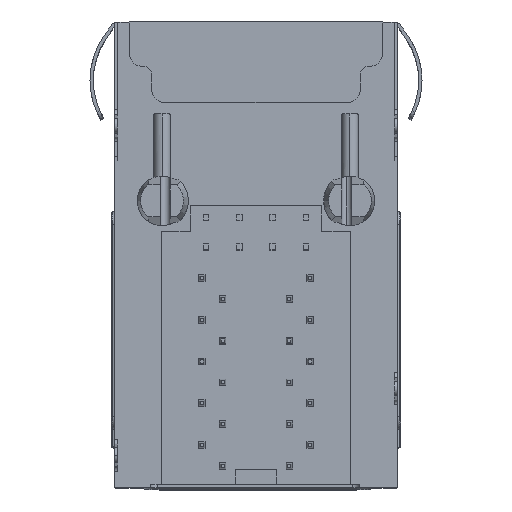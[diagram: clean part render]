
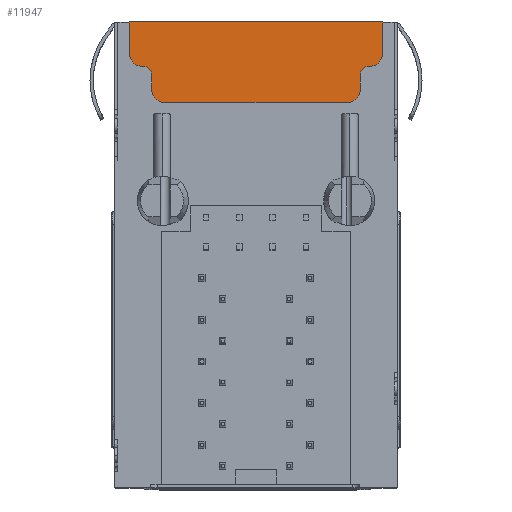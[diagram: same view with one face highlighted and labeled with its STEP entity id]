
A CAD part, top view. The second image highlights one B-rep face of the part: STEP entity #11947.
In plain terms, the highlighted planar face has unit normal (0, 0, 1).
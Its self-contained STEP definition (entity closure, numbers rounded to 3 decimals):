
#676 = ORIENTED_EDGE ( 'NONE', *, *, #8864, .T. ) ;
#677 = ORIENTED_EDGE ( 'NONE', *, *, #8904, .T. ) ;
#678 = ORIENTED_EDGE ( 'NONE', *, *, #8902, .T. ) ;
#679 = ORIENTED_EDGE ( 'NONE', *, *, #8900, .T. ) ;
#680 = ORIENTED_EDGE ( 'NONE', *, *, #8898, .T. ) ;
#681 = ORIENTED_EDGE ( 'NONE', *, *, #8895, .T. ) ;
#682 = ORIENTED_EDGE ( 'NONE', *, *, #20774, .F. ) ;
#683 = ORIENTED_EDGE ( 'NONE', *, *, #8879, .T. ) ;
#684 = ORIENTED_EDGE ( 'NONE', *, *, #8877, .T. ) ;
#685 = ORIENTED_EDGE ( 'NONE', *, *, #8876, .T. ) ;
#686 = ORIENTED_EDGE ( 'NONE', *, *, #8873, .T. ) ;
#687 = ORIENTED_EDGE ( 'NONE', *, *, #8871, .T. ) ;
#688 = ORIENTED_EDGE ( 'NONE', *, *, #8869, .T. ) ;
#689 = ORIENTED_EDGE ( 'NONE', *, *, #8867, .T. ) ;
#7247 = EDGE_LOOP ( 'NONE', ( #676, #677, #678, #679, #680, #681, #682, #683, #684, #685, #686, #687, #688, #689 ) ) ;
#8864 = EDGE_CURVE ( 'NONE', #30817, #30812, #13336, .T. ) ;
#8867 = EDGE_CURVE ( 'NONE', #30819, #30817, #13339, .T. ) ;
#8869 = EDGE_CURVE ( 'NONE', #30818, #30819, #13341, .T. ) ;
#8871 = EDGE_CURVE ( 'NONE', #30820, #30818, #13345, .T. ) ;
#8873 = EDGE_CURVE ( 'NONE', #30824, #30820, #13352, .T. ) ;
#8876 = EDGE_CURVE ( 'NONE', #30822, #30824, #13355, .T. ) ;
#8877 = EDGE_CURVE ( 'NONE', #30821, #30822, #13359, .T. ) ;
#8879 = EDGE_CURVE ( 'NONE', #30825, #30821, #13357, .T. ) ;
#8895 = EDGE_CURVE ( 'NONE', #30827, #30810, #13386, .T. ) ;
#8898 = EDGE_CURVE ( 'NONE', #30830, #30827, #13390, .T. ) ;
#8900 = EDGE_CURVE ( 'NONE', #30826, #30830, #13392, .T. ) ;
#8902 = EDGE_CURVE ( 'NONE', #30829, #30826, #13399, .T. ) ;
#8904 = EDGE_CURVE ( 'NONE', #30812, #30829, #13402, .T. ) ;
#11814 = AXIS2_PLACEMENT_3D ( 'NONE', #14986, #14987, #14988 ) ;
#11815 = AXIS2_PLACEMENT_3D ( 'NONE', #14997, #14998, #14999 ) ;
#11816 = AXIS2_PLACEMENT_3D ( 'NONE', #15006, #15007, #15008 ) ;
#11817 = AXIS2_PLACEMENT_3D ( 'NONE', #15014, #15015, #15016 ) ;
#11826 = AXIS2_PLACEMENT_3D ( 'NONE', #15066, #15067, #15068 ) ;
#11827 = AXIS2_PLACEMENT_3D ( 'NONE', #15075, #15076, #15077 ) ;
#11947 = ADVANCED_FACE ( 'NONE', ( #13521 ), #15448, .T. ) ;
#13336 = CIRCLE ( 'NONE', #11814, 0.8 ) ;
#13339 = LINE ( 'NONE', #14984, #13344 ) ;
#13341 = CIRCLE ( 'NONE', #11815, 0.8 ) ;
#13344 = VECTOR ( 'NONE', #14991, 1000. ) ;
#13345 = LINE ( 'NONE', #14996, #13351 ) ;
#13351 = VECTOR ( 'NONE', #15001, 1000. ) ;
#13352 = CIRCLE ( 'NONE', #11816, 0.5 ) ;
#13355 = LINE ( 'NONE', #15004, #13360 ) ;
#13357 = LINE ( 'NONE', #15013, #13365 ) ;
#13359 = CIRCLE ( 'NONE', #11817, 0.8 ) ;
#13360 = VECTOR ( 'NONE', #15012, 1000. ) ;
#13365 = VECTOR ( 'NONE', #15017, 1000. ) ;
#13386 = LINE ( 'NONE', #15057, #13389 ) ;
#13389 = VECTOR ( 'NONE', #15058, 1000. ) ;
#13390 = CIRCLE ( 'NONE', #11826, 0.8 ) ;
#13392 = LINE ( 'NONE', #15065, #13398 ) ;
#13398 = VECTOR ( 'NONE', #15070, 1000. ) ;
#13399 = CIRCLE ( 'NONE', #11827, 0.5 ) ;
#13402 = LINE ( 'NONE', #15078, #13405 ) ;
#13405 = VECTOR ( 'NONE', #15079, 1000. ) ;
#13521 = FACE_OUTER_BOUND ( 'NONE', #7247, .T. ) ;
#14984 = CARTESIAN_POINT ( 'NONE',  ( -8.024, 9.35, 12.87 ) ) ;
#14986 = CARTESIAN_POINT ( 'NONE',  ( 5.56, 10.15, 12.87 ) ) ;
#14987 = DIRECTION ( 'NONE',  ( 0., 0., 1. ) ) ;
#14988 = DIRECTION ( 'NONE',  ( 1., 0., 0. ) ) ;
#14991 = DIRECTION ( 'NONE',  ( 1., 0., 0. ) ) ;
#14996 = CARTESIAN_POINT ( 'NONE',  ( -6.36, 8.436, 12.87 ) ) ;
#14997 = CARTESIAN_POINT ( 'NONE',  ( -5.56, 10.15, 12.87 ) ) ;
#14998 = DIRECTION ( 'NONE',  ( 0., 0., 1. ) ) ;
#14999 = DIRECTION ( 'NONE',  ( 1., 0., 0. ) ) ;
#15001 = DIRECTION ( 'NONE',  ( 0., -1., 0. ) ) ;
#15004 = CARTESIAN_POINT ( 'NONE',  ( -8.024, 11.55, 12.87 ) ) ;
#15006 = CARTESIAN_POINT ( 'NONE',  ( -6.86, 11.05, 12.87 ) ) ;
#15007 = DIRECTION ( 'NONE',  ( 0., 0., -1. ) ) ;
#15008 = DIRECTION ( 'NONE',  ( 1., 0., 0. ) ) ;
#15012 = DIRECTION ( 'NONE',  ( 1., 0., 0. ) ) ;
#15013 = CARTESIAN_POINT ( 'NONE',  ( -7.715, 8.436, 12.87 ) ) ;
#15014 = CARTESIAN_POINT ( 'NONE',  ( -6.915, 12.35, 12.87 ) ) ;
#15015 = DIRECTION ( 'NONE',  ( 0., 0., 1. ) ) ;
#15016 = DIRECTION ( 'NONE',  ( 0., -1., 0. ) ) ;
#15017 = DIRECTION ( 'NONE',  ( 0., -1., 0. ) ) ;
#15057 = CARTESIAN_POINT ( 'NONE',  ( 7.715, 8.436, 12.87 ) ) ;
#15058 = DIRECTION ( 'NONE',  ( 0., 1., 0. ) ) ;
#15065 = CARTESIAN_POINT ( 'NONE',  ( -8.024, 11.55, 12.87 ) ) ;
#15066 = CARTESIAN_POINT ( 'NONE',  ( 6.915, 12.35, 12.87 ) ) ;
#15067 = DIRECTION ( 'NONE',  ( 0., 0., 1. ) ) ;
#15068 = DIRECTION ( 'NONE',  ( 0., -1., 0. ) ) ;
#15070 = DIRECTION ( 'NONE',  ( 1., 0., 0. ) ) ;
#15075 = CARTESIAN_POINT ( 'NONE',  ( 6.86, 11.05, 12.87 ) ) ;
#15076 = DIRECTION ( 'NONE',  ( 0., 0., -1. ) ) ;
#15077 = DIRECTION ( 'NONE',  ( 1., 0., 0. ) ) ;
#15078 = CARTESIAN_POINT ( 'NONE',  ( 6.36, 8.436, 12.87 ) ) ;
#15079 = DIRECTION ( 'NONE',  ( 0., 1., 0. ) ) ;
#15444 = CARTESIAN_POINT ( 'NONE',  ( -8.024, 8.436, 12.87 ) ) ;
#15448 = PLANE ( 'NONE',  #15697 ) ;
#15450 = DIRECTION ( 'NONE',  ( 0., 0., 1. ) ) ;
#15451 = DIRECTION ( 'NONE',  ( 1., 0., 0. ) ) ;
#15697 = AXIS2_PLACEMENT_3D ( 'NONE', #15444, #15450, #15451 ) ;
#17813 = LINE ( 'NONE', #20435, #17816 ) ;
#17816 = VECTOR ( 'NONE', #20436, 1000. ) ;
#20435 = CARTESIAN_POINT ( 'NONE',  ( -8.949, 14.25, 12.87 ) ) ;
#20436 = DIRECTION ( 'NONE',  ( 1., 0., 0. ) ) ;
#20774 = EDGE_CURVE ( 'NONE', #30825, #30810, #17813, .T. ) ;
#29695 = CARTESIAN_POINT ( 'NONE',  ( 7.715, 14.25, 12.87 ) ) ;
#29697 = CARTESIAN_POINT ( 'NONE',  ( 6.36, 10.15, 12.87 ) ) ;
#29702 = CARTESIAN_POINT ( 'NONE',  ( 5.56, 9.35, 12.87 ) ) ;
#29703 = CARTESIAN_POINT ( 'NONE',  ( -6.36, 10.15, 12.87 ) ) ;
#29704 = CARTESIAN_POINT ( 'NONE',  ( -5.56, 9.35, 12.87 ) ) ;
#29705 = CARTESIAN_POINT ( 'NONE',  ( -6.36, 11.05, 12.87 ) ) ;
#29706 = CARTESIAN_POINT ( 'NONE',  ( -7.715, 12.35, 12.87 ) ) ;
#29707 = CARTESIAN_POINT ( 'NONE',  ( -6.915, 11.55, 12.87 ) ) ;
#29709 = CARTESIAN_POINT ( 'NONE',  ( -6.86, 11.55, 12.87 ) ) ;
#29710 = CARTESIAN_POINT ( 'NONE',  ( -7.715, 14.25, 12.87 ) ) ;
#29711 = CARTESIAN_POINT ( 'NONE',  ( 6.86, 11.55, 12.87 ) ) ;
#29712 = CARTESIAN_POINT ( 'NONE',  ( 7.715, 12.35, 12.87 ) ) ;
#29714 = CARTESIAN_POINT ( 'NONE',  ( 6.36, 11.05, 12.87 ) ) ;
#29715 = CARTESIAN_POINT ( 'NONE',  ( 6.915, 11.55, 12.87 ) ) ;
#30810 = VERTEX_POINT ( 'NONE', #29695 ) ;
#30812 = VERTEX_POINT ( 'NONE', #29697 ) ;
#30817 = VERTEX_POINT ( 'NONE', #29702 ) ;
#30818 = VERTEX_POINT ( 'NONE', #29703 ) ;
#30819 = VERTEX_POINT ( 'NONE', #29704 ) ;
#30820 = VERTEX_POINT ( 'NONE', #29705 ) ;
#30821 = VERTEX_POINT ( 'NONE', #29706 ) ;
#30822 = VERTEX_POINT ( 'NONE', #29707 ) ;
#30824 = VERTEX_POINT ( 'NONE', #29709 ) ;
#30825 = VERTEX_POINT ( 'NONE', #29710 ) ;
#30826 = VERTEX_POINT ( 'NONE', #29711 ) ;
#30827 = VERTEX_POINT ( 'NONE', #29712 ) ;
#30829 = VERTEX_POINT ( 'NONE', #29714 ) ;
#30830 = VERTEX_POINT ( 'NONE', #29715 ) ;
